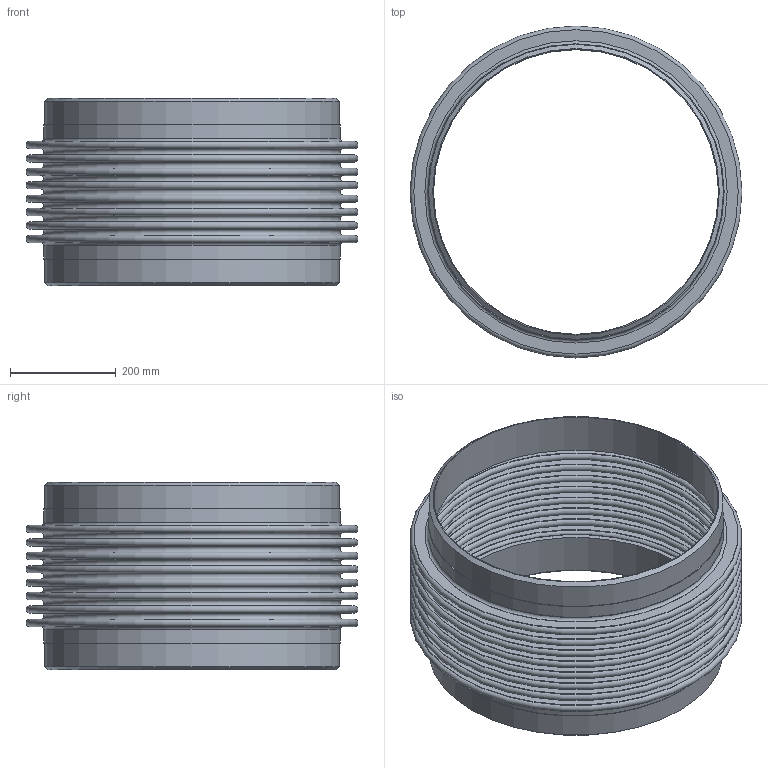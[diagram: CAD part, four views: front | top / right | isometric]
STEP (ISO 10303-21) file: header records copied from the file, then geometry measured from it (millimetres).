
FILE_DESCRIPTION(/* description */ (''),/* implementation_level */ '2;1');
FILE_NAME(/* name */ 'PIPE- 22- 85 PSIG.stp',/* time_stamp */ '2026-07-23T09:30:56-05:00',/* author */ ('jorgef'),/* organization */ (''),/* preprocessor_version */ 'ST-DEVELOPER v20.1',/* originating_system */ 'Autodesk Inventor 2026',/* authorisation */ '');
FILE_SCHEMA (('AUTOMOTIVE_DESIGN { 1 0 10303 214 3 1 1 }'));
Length unit declared in the file: inch
Products named in the file (1): PIPE- 22- 85 PSIG ASSEMBLY PART
Bounding box: 628.65 x 628.65 x 355.6 mm (x, y, z)
Volume: 4019966.7 mm3; surface area: 3026664.7 mm2
Topology: 1 solids, 1 shells, 80 faces, 126 edges, 84 vertices
Faces by surface type: plane 38, torus 34, cylinder 6, cone 2
Full cylindrical faces by diameter (mm): 539.75 x2, 558.8 x2, 561.238 x2
Entity records: 2035 total; most frequent: DIRECTION 406, CARTESIAN_POINT 291, ORIENTED_EDGE 252, AXIS2_PLACEMENT_3D 199, EDGE_CURVE 126, EDGE_LOOP 118, CIRCLE 118, VERTEX_POINT 84
